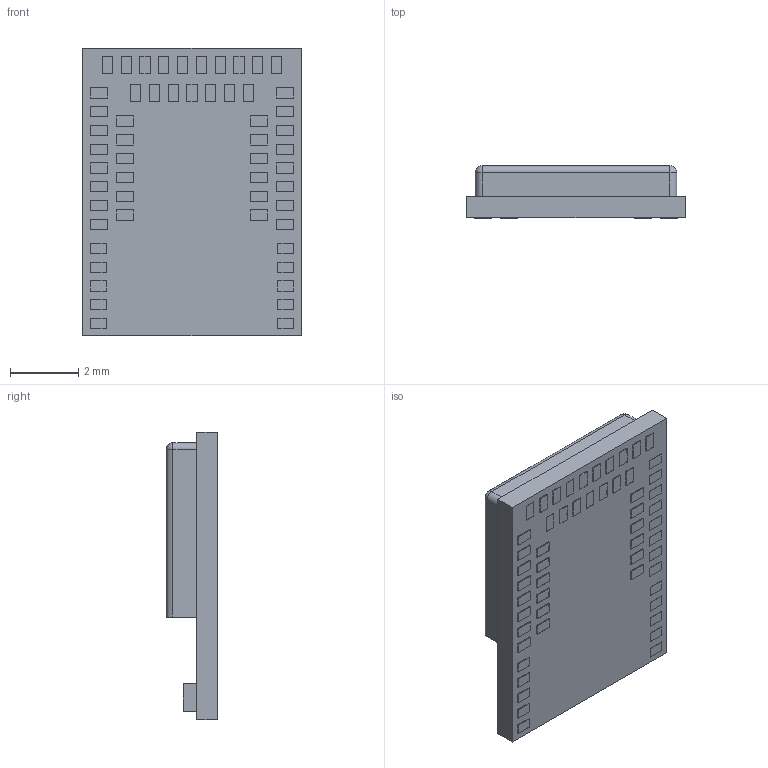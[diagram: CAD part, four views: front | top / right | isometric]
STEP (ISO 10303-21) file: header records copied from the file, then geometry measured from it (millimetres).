
FILE_DESCRIPTION((''),'2;1');
FILE_NAME('01-01-AN54LV-15_ASM','2025-11-18T21:46:46',('curt_Chen'),(''),'CREO PARAMETRIC BY PTC INC, 2024063','CREO PARAMETRIC BY PTC INC, 2024063','');
FILE_SCHEMA(('AUTOMOTIVE_DESIGN { 1 0 10303 214 1 1 1 1 }'));
Length unit declared in the file: millimetre
Products named in the file (5): 02-01-PCB-AN54LV-15; 02-EMI-SHEILDING; 02-CAPACITANCE-0201; 02-ANT1608LL14R2400A; 01-01-AN54LV-15_ASM
Assembly tree (4 placements, depth 2):
  01-01-AN54LV-15_ASM
    02-01-PCB-AN54LV-15
    02-EMI-SHEILDING
    02-CAPACITANCE-0201
    02-ANT1608LL14R2400A
Bounding box: 6.4 x 1.52 x 8.4 mm (x, y, z)
Volume: 41.2 mm3; surface area: 219.5 mm2
Topology: 4 solids, 4 shells, 320 faces, 976 edges, 940 vertices
Faces by surface type: plane 308, cylinder 9, sphere 3
Entity records: 14272 total; most frequent: CARTESIAN_POINT 1891, DIRECTION 1772, ORIENTED_EDGE 1512, VECTOR 959, LINE 959, PRESENTATION_STYLE_ASSIGNMENT 955, STYLED_ITEM 900, CURVE_STYLE 899
